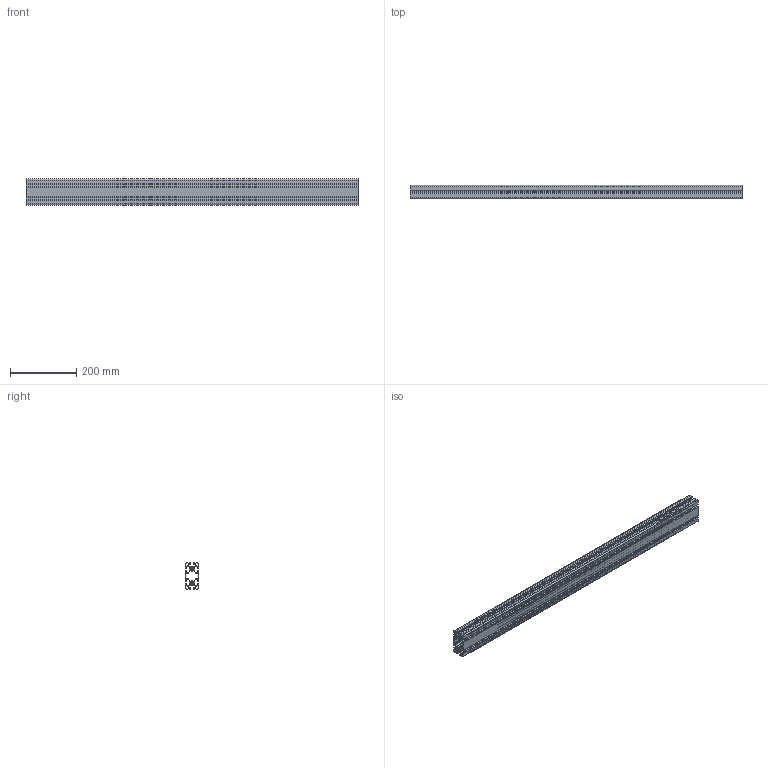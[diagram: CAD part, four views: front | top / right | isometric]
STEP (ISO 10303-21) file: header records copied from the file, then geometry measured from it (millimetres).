
FILE_DESCRIPTION (( 'STEP AP203' ), '1' );
FILE_NAME ('10423_PRO_80x40_E.STEP', '2016-03-01T15:07:39', ( '' ), ( '' ), 'SwSTEP 2.0', 'SolidWorks 2015', '' );
FILE_SCHEMA (( 'CONFIG_CONTROL_DESIGN' ));
Length unit declared in the file: millimetre
Products named in the file (1): 10423_PRO_80x40_E
Bounding box: 1000 x 40 x 80 mm (x, y, z)
Volume: 896255.3 mm3; surface area: 897722.8 mm2
Topology: 1 solids, 1 shells, 416 faces, 1242 edges, 828 vertices
Faces by surface type: plane 254, cylinder 162
Entity records: 14131 total; most frequent: CARTESIAN_POINT 2487, ORIENTED_EDGE 2484, DIRECTION 2400, EDGE_CURVE 1242, LINE 918, VECTOR 918, VERTEX_POINT 828, AXIS2_PLACEMENT_3D 741
